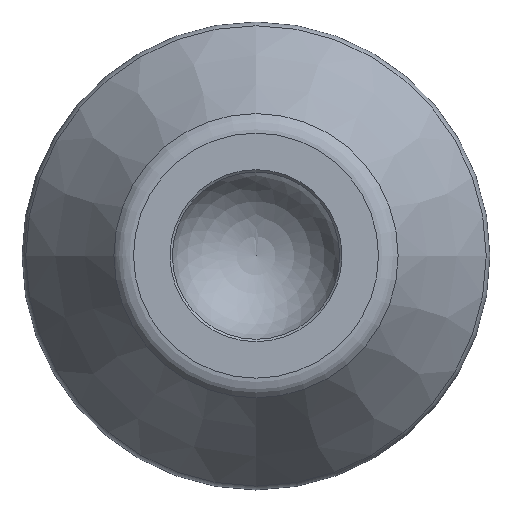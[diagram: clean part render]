
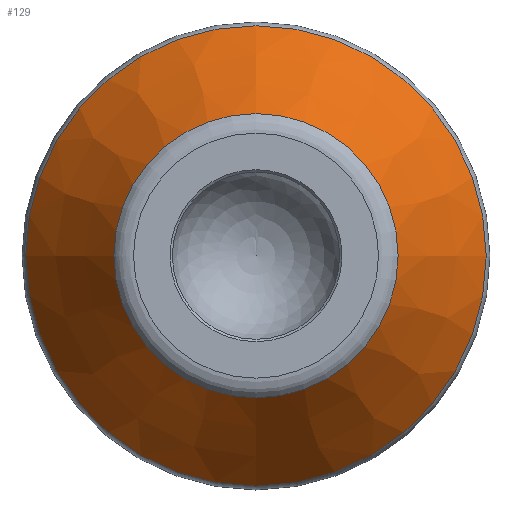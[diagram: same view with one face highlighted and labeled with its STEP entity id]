
A CAD part, top view. The second image highlights one B-rep face of the part: STEP entity #129.
In plain terms, the highlighted conical face has half-angle 33 degrees and reference radius 15.913 mm.
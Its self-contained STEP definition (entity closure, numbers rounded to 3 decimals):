
#129=ADVANCED_FACE('',(#739,#741),#743,.T.);
#739=FACE_OUTER_BOUND('',#740,.T.);
#740=EDGE_LOOP('',(#1398));
#741=FACE_OUTER_BOUND('',#742,.T.);
#742=EDGE_LOOP('',(#1399));
#743=CONICAL_SURFACE('',#744,15.913,0.576);
#744=AXIS2_PLACEMENT_3D('',#745,#746,#747);
#745=CARTESIAN_POINT('',(0.,0.,11.293));
#746=DIRECTION('',(0.,0.,-1.));
#747=DIRECTION('',(1.,0.,0.));
#1398=ORIENTED_EDGE('',*,*,#1770,.F.);
#1399=ORIENTED_EDGE('',*,*,#1768,.T.);
#1768=EDGE_CURVE('',#2237,#2237,#2238,.T.);
#1770=EDGE_CURVE('',#2241,#2241,#2242,.T.);
#2237=VERTEX_POINT('',#4953);
#2238=CIRCLE('',#4954,19.677);
#2241=VERTEX_POINT('',#4963);
#2242=CIRCLE('',#4964,12.149);
#4953=CARTESIAN_POINT('',(-19.677,0.,5.497));
#4954=AXIS2_PLACEMENT_3D('',#4955,#4956,#4957);
#4955=CARTESIAN_POINT('',(0.,0.,5.497));
#4956=DIRECTION('',(0.,0.,1.));
#4957=DIRECTION('',(-1.,0.,0.));
#4963=CARTESIAN_POINT('',(-12.149,0.,17.089));
#4964=AXIS2_PLACEMENT_3D('',#4965,#4966,#4967);
#4965=CARTESIAN_POINT('',(0.,0.,17.089));
#4966=DIRECTION('',(0.,0.,1.));
#4967=DIRECTION('',(-1.,0.,0.));
